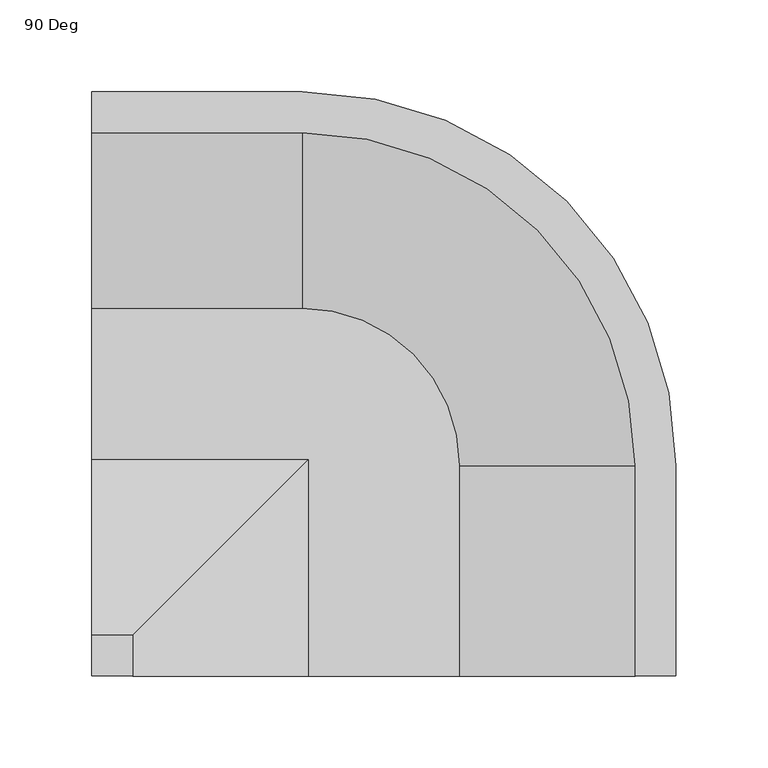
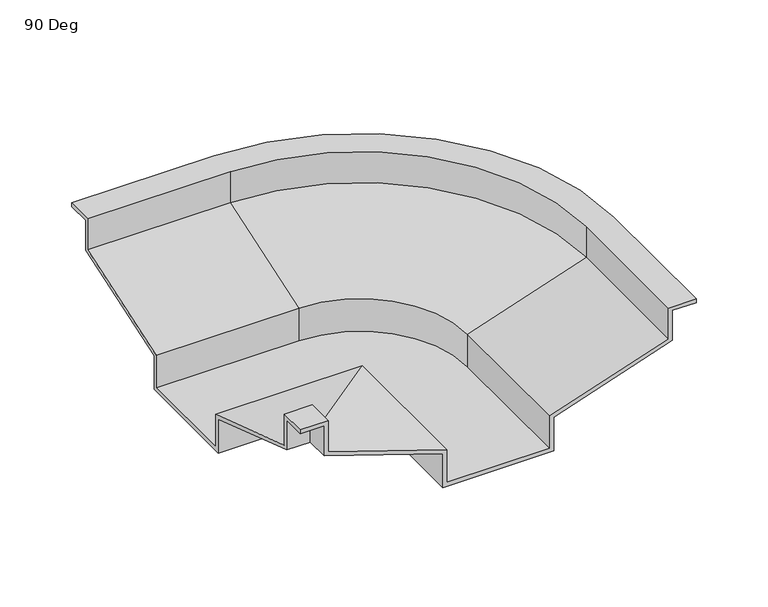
"""IFC4 building model written with IfcOpenShell, lengths in millimetres: furniture geometry, HermanMiller_Ethospace_E2828_CounterTopSupportFiller : 90 Deg."""

from ifc_helpers import new_model, si_unit, frame, origin, place, context, project, spatial, polyline, circle_curve, source, transform, mapped, element, save
from ifc_brep_helpers import plane_surface, cylinder_surface, revolved_surface, advanced_brep


def furniture_90_deg_19f469a9(model_context):
    return source(origin(), model_context, "Body", "AdvancedBrep", [
        advanced_brep(
        [(-158.75, 53.975, 996.0634105), (-158.75, 149.225, 1027.8134105), (-158.75, 149.225, 1054.1), (-158.75, 171.45, 1054.1), (-158.75, 171.45, 1050.925), (-158.75, 152.4, 1050.925), (-158.75, 152.4, 1025.525), (-158.75, 57.15, 993.775), (-158.75, 57.15, 965.2), (-158.75, -31.75, 965.2), (-158.75, -31.75, 993.775), (-158.75, -127.0, 1025.525), (-158.75, -127.0, 1050.925), (-158.75, -146.05, 1050.925), (-158.75, -146.05, 1054.1), (-158.75, -123.825, 1054.1), (-158.75, -123.825, 1027.8134105), (-158.75, -28.575, 996.0634105), (-158.75, -28.575, 968.375), (-158.75, 53.975, 968.375), (-44.45, 53.975, 996.0634105), (-44.45, 149.225, 1027.8134105), (-44.45, 149.225, 1054.1), (136.525, -31.75, 1054.1), (136.525, -146.05, 1054.1), (158.75, -146.05, 1054.1), (158.75, -31.75, 1054.1), (-44.45, 171.45, 1054.1), (-44.45, 171.45, 1050.925), (158.75, -31.75, 1050.925), (158.75, -146.05, 1050.925), (139.7, -146.05, 1050.925), (139.7, -31.75, 1050.925), (-44.45, 152.4, 1050.925), (-44.45, 152.4, 1025.525), (-44.45, 57.15, 993.775), (-44.45, 57.15, 968.375), (-44.45, 57.15, 965.2), (44.45, -31.75, 965.2), (44.45, -146.05, 965.2), (-44.45, -146.05, 965.2), (-44.45, -31.75, 965.2), (-44.45, 53.975, 968.375), (41.275, -31.75, 996.0634105), (136.525, -31.75, 1027.8134105), (139.7, -31.75, 1025.525), (44.45, -31.75, 993.775), (44.45, -31.75, 968.375), (41.275, -31.75, 968.375), (136.525, -146.05, 1027.8134105), (41.275, -146.05, 996.0634105), (41.275, -146.05, 968.375), (-41.275, -146.05, 968.375), (-41.275, -146.05, 996.0634105), (-136.525, -146.05, 1027.8134105), (-136.525, -146.05, 1054.1), (-139.7, -146.05, 1050.925), (-139.7, -146.05, 1025.525), (-44.45, -146.05, 993.775), (44.45, -146.05, 993.775), (139.7, -146.05, 1025.525), (-41.275, -28.575, 968.375), (-44.45, -31.75, 993.775), (-139.7, -127.0, 1025.525), (-41.275, -28.575, 996.0634105), (-136.525, -123.825, 1027.8134105), (-136.525, -123.825, 1054.1), (-139.7, -127.0, 1050.925)],
        [
            (0, 1),
            (1, 2),
            (2, 3),
            (3, 4),
            (4, 5),
            (5, 6),
            (6, 7),
            (7, 8),
            (8, 9),
            (9, 10),
            (10, 11),
            (11, 12),
            (12, 13),
            (13, 14),
            (14, 15),
            (15, 16),
            (16, 17),
            (17, 18),
            (18, 19),
            (19, 0),
            (0, 20),
            (20, 21),
            (21, 1),
            (21, 22),
            (22, 2),
            (22, 23, circle_curve(frame((-44.45, -31.75, 1054.1), z_axis=(0.0, 0.0, -1.0), x_axis=(0.0, 1.0, 0.0)), 180.975)),
            (23, 24),
            (24, 25),
            (25, 26),
            (26, 27, circle_curve(frame((-44.45, -31.75, 1054.1), z_axis=(0.0, 0.0, 1.0), x_axis=(0.0, 1.0, 0.0)), 203.2)),
            (27, 3),
            (27, 28),
            (28, 4),
            (28, 29, circle_curve(frame((-44.45, -31.75, 1050.925), z_axis=(0.0, 0.0, -1.0), x_axis=(0.0, 1.0, 0.0)), 203.2)),
            (29, 30),
            (30, 31),
            (31, 32),
            (32, 33, circle_curve(frame((-44.45, -31.75, 1050.925), z_axis=(0.0, 0.0, 1.0), x_axis=(0.0, 1.0, 0.0)), 184.15)),
            (33, 5),
            (33, 34),
            (34, 6),
            (34, 35),
            (35, 7),
            (35, 36),
            (36, 37),
            (37, 8),
            (37, 38, circle_curve(frame((-44.45, -31.75, 965.2), z_axis=(0.0, 0.0, -1.0), x_axis=(0.0, 1.0, 0.0)), 88.9)),
            (38, 39),
            (39, 40),
            (40, 41),
            (41, 9),
            (19, 42),
            (42, 20),
            (20, 43, circle_curve(frame((-44.45, -31.75, 996.0634105), z_axis=(0.0, 0.0, -1.0), x_axis=(0.0, 1.0, 0.0)), 85.725)),
            (43, 44),
            (44, 21, circle_curve(frame((-44.45, -31.75, 1027.8134105), z_axis=(0.0, 0.0, 1.0), x_axis=(0.0, 1.0, 0.0)), 180.975)),
            (44, 23),
            (26, 29),
            (32, 45),
            (45, 34, circle_curve(frame((-44.45, -31.75, 1025.525), z_axis=(0.0, 0.0, 1.0), x_axis=(0.0, 1.0, 0.0)), 184.15)),
            (45, 46),
            (46, 35, circle_curve(frame((-44.45, -31.75, 993.775), z_axis=(0.0, 0.0, 1.0), x_axis=(0.0, 1.0, 0.0)), 88.9)),
            (46, 47),
            (47, 38),
            (42, 48, circle_curve(frame((-44.45, -31.75, 968.375), z_axis=(0.0, 0.0, -1.0), x_axis=(0.0, 1.0, 0.0)), 85.725)),
            (48, 43),
            (24, 49),
            (49, 50),
            (50, 51),
            (51, 52),
            (52, 53),
            (53, 54),
            (54, 55),
            (55, 14),
            (13, 56),
            (56, 57),
            (57, 58),
            (58, 40),
            (39, 59),
            (59, 60),
            (60, 31),
            (30, 25),
            (43, 50),
            (49, 44),
            (60, 45),
            (59, 46),
            (48, 51),
            (18, 61),
            (61, 52),
            (41, 62),
            (62, 10),
            (58, 62),
            (57, 63),
            (63, 62),
            (64, 53),
            (61, 64),
            (64, 65),
            (65, 54),
            (65, 66),
            (66, 55),
            (66, 15),
            (12, 67),
            (67, 56),
            (67, 63),
            (63, 11),
            (17, 64),
            (16, 65),
        ],
        [
            plane_surface(frame((-158.75, 171.45, 1562.1), z_axis=(-1.0, 0.0, 0.0), x_axis=(0.0, 0.0, 1.0))),
            plane_surface(frame((-158.75, 53.975, 996.0634105), z_axis=(0.0, -0.3162277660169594, 0.9486832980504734), x_axis=(1.0, 0.0, 0.0))),
            plane_surface(frame((-158.75, 149.225, 1027.8134105), z_axis=(0.0, -1.0, 0.0), x_axis=(1.0, 0.0, 0.0))),
            plane_surface(frame((-158.75, 149.225, 1054.1), z_axis=(0.0, 0.0, 1.0), x_axis=(1.0, 0.0, 0.0))),
            plane_surface(frame((-158.75, 171.45, 1054.1), z_axis=(0.0, 1.0, 0.0), x_axis=(1.0, 0.0, 0.0))),
            plane_surface(frame((-158.75, 171.45, 1050.925), z_axis=(0.0, 0.0, -1.0), x_axis=(1.0, 0.0, 0.0))),
            plane_surface(frame((-158.75, 152.4, 1050.925), z_axis=(0.0, 1.0, 0.0), x_axis=(1.0, 0.0, 0.0))),
            plane_surface(frame((-158.75, 152.4, 1025.525), z_axis=(0.0, 0.3162277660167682, -0.9486832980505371), x_axis=(1.0, 0.0, 0.0))),
            plane_surface(frame((-158.75, 57.15, 993.775), z_axis=(0.0, 1.0, 0.0), x_axis=(1.0, 0.0, 0.0))),
            plane_surface(frame((-158.75, 57.15, 965.2), z_axis=(0.0, 0.0, -1.0), x_axis=(1.0, 0.0, 0.0))),
            plane_surface(frame((-158.75, 53.975, 965.2), z_axis=(0.0, -1.0, 0.0), x_axis=(1.0, 0.0, 0.0))),
            revolved_surface(polyline([(-44.45, 53.975, 996.0634105), (-44.45, 149.225, 1027.8134105)]), (-44.45, -31.75, 1562.1), (0.0, 0.0, -1.0)),
            revolved_surface(polyline([(-44.45, 149.225, 1027.8134105), (-44.45, 149.225, 1054.1)]), (-44.45, -31.75, 1562.1), (0.0, 0.0, -1.0)),
            cylinder_surface(frame((-44.45, -31.75, 1562.1), z_axis=(0.0, 0.0, -1.0), x_axis=(0.0, 1.0, 0.0)), 203.2),
            cylinder_surface(frame((-44.45, -31.75, 1562.1), z_axis=(0.0, 0.0, -1.0), x_axis=(0.0, 1.0, 0.0)), 184.15),
            revolved_surface(polyline([(-44.45, 152.4, 1025.525), (-44.45, 57.15, 993.775)]), (-44.45, -31.75, 1562.1), (0.0, 0.0, -1.0)),
            cylinder_surface(frame((-44.45, -31.75, 1562.1), z_axis=(0.0, 0.0, -1.0), x_axis=(0.0, 1.0, 0.0)), 88.9),
            revolved_surface(polyline([(-44.45, 53.974999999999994, 968.375), (-44.45, 53.974999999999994, 996.0634105)]), (-44.45, -31.75, 1562.1), (0.0, 0.0, -1.0)),
            plane_surface(frame((158.75, -146.05, 1562.1), z_axis=(0.0, -1.0, 0.0), x_axis=(0.0, 0.0, 1.0))),
            plane_surface(frame((41.275, -31.75, 996.0634105), z_axis=(-0.3162277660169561, 0.0, 0.9486832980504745), x_axis=(0.0, -1.0, 0.0))),
            plane_surface(frame((136.525, -31.75, 1027.8134105), z_axis=(-1.0, 0.0, 0.0), x_axis=(0.0, -1.0, 0.0))),
            plane_surface(frame((158.75, -31.75, 1054.1), z_axis=(1.0, 0.0, 0.0), x_axis=(0.0, -1.0, 0.0))),
            plane_surface(frame((139.7, -31.75, 1050.925), z_axis=(1.0, 0.0, 0.0), x_axis=(0.0, -1.0, 0.0))),
            plane_surface(frame((139.7, -31.75, 1025.525), z_axis=(0.31622776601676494, 0.0, -0.9486832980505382), x_axis=(0.0, -1.0, 0.0))),
            plane_surface(frame((44.45, -31.75, 993.775), z_axis=(1.0, 0.0, 0.0), x_axis=(0.0, -1.0, 0.0))),
            plane_surface(frame((41.275, -31.75, 965.2), z_axis=(-1.0, 0.0, 0.0), x_axis=(0.0, -1.0, 0.0))),
            plane_surface(frame((-44.45, 57.15, 968.375), z_axis=(0.0, 0.0, 1.0), x_axis=(-1.0, 0.0, 0.0))),
            plane_surface(frame((-158.75, -31.75, 968.375), z_axis=(0.0, -1.0, 0.0), x_axis=(0.0, 0.0, -1.0))),
            plane_surface(frame((-44.45, -31.75, 968.375), z_axis=(-1.0, 0.0, 0.0), x_axis=(0.0, 0.0, -1.0))),
            plane_surface(frame((-139.7, -146.05, 1025.525), z_axis=(-0.31622776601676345, 0.0, -0.9486832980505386), x_axis=(0.0, 1.0, 0.0))),
            plane_surface(frame((-41.275, -146.05, 965.2), z_axis=(1.0, 0.0, 0.0), x_axis=(0.0, 1.0, 0.0))),
            plane_surface(frame((-41.275, -146.05, 996.0634105), z_axis=(0.31622776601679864, 0.0, 0.948683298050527), x_axis=(0.0, 1.0, 0.0))),
            plane_surface(frame((-136.525, -146.05, 1027.8134105), z_axis=(1.0, 0.0, 0.0), x_axis=(0.0, 1.0, 0.0))),
            plane_surface(frame((-136.525, -146.05, 1054.1), z_axis=(0.0, 0.0, 1.0), x_axis=(0.0, 1.0, 0.0))),
            plane_surface(frame((-158.75, -146.05, 1050.925), z_axis=(0.0, 0.0, -1.0), x_axis=(0.0, 1.0, 0.0))),
            plane_surface(frame((-139.7, -146.05, 1050.925), z_axis=(-1.0, 0.0, 0.0), x_axis=(0.0, 1.0, 0.0))),
            plane_surface(frame((-139.7, -127.0, 1025.525), z_axis=(0.0, -0.316227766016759, -0.9486832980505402), x_axis=(-1.0, 0.0, 0.0))),
            plane_surface(frame((-41.275, -28.575, 965.2), z_axis=(0.0, 1.0, 0.0), x_axis=(-1.0, 0.0, 0.0))),
            plane_surface(frame((-41.275, -28.575, 996.0634105), z_axis=(0.0, 0.31622776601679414, 0.9486832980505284), x_axis=(-1.0, 0.0, 0.0))),
            plane_surface(frame((-136.525, -123.825, 1027.8134105), z_axis=(0.0, 1.0, 0.0), x_axis=(-1.0, 0.0, 0.0))),
            plane_surface(frame((-139.7, -127.0, 1050.925), z_axis=(0.0, -1.0, 0.0), x_axis=(-1.0, 0.0, 0.0))),
        ],
        [
            (0, [[1, 2, 3, 4, 5, 6, 7, 8, 9, 10, 11, 12, 13, 14, 15, 16, 17, 18, 19, 20]]),
            (1, [[-1, 21, 22, 23]]),
            (2, [[-2, -23, 24, 25]]),
            (3, [[-3, -25, 26, 27, 28, 29, 30, 31]]),
            (4, [[-4, -31, 32, 33]]),
            (5, [[-5, -33, 34, 35, 36, 37, 38, 39]]),
            (6, [[-6, -39, 40, 41]]),
            (7, [[-7, -41, 42, 43]]),
            (8, [[-43, 44, 45, 46, -8]]),
            (9, [[-9, -46, 47, 48, 49, 50, 51]]),
            (10, [[-21, -20, 52, 53]]),
            (11, [[-22, 54, 55, 56]]),
            (12, [[-24, -56, 57, -26]]),
            (13, [[-30, 58, -34, -32]]),
            (14, [[-38, 59, 60, -40]]),
            (15, [[-42, -60, 61, 62]]),
            (16, [[-47, -45, -44, -62, 63, 64]]),
            (17, [[-54, -53, 65, 66]]),
            (18, [[-28, 67, 68, 69, 70, 71, 72, 73, 74, -14, 75, 76, 77, 78, -49, 79, 80, 81, -36, 82]]),
            (19, [[-55, 83, -68, 84]]),
            (20, [[-27, -57, -84, -67]]),
            (21, [[-29, -82, -35, -58]]),
            (22, [[-37, -81, 85, -59]]),
            (23, [[-61, -85, -80, 86]]),
            (24, [[-48, -64, -63, -86, -79]]),
            (25, [[-83, -66, 87, -69]]),
            (26, [[-52, -19, 88, 89, -70, -87, -65]]),
            (27, [[-10, -51, 90, 91]]),
            (28, [[-90, -50, -78, 92]]),
            (29, [[-77, 93, 94, -92]]),
            (30, [[95, -71, -89, 96]]),
            (31, [[-72, -95, 97, 98]]),
            (32, [[-73, -98, 99, 100]]),
            (33, [[-74, -100, 101, -15]]),
            (34, [[-75, -13, 102, 103]]),
            (35, [[-76, -103, 104, -93]]),
            (36, [[-94, 105, -11, -91]]),
            (37, [[106, -96, -88, -18]]),
            (38, [[-97, -106, -17, 107]]),
            (39, [[-99, -107, -16, -101]]),
            (40, [[-102, -12, -105, -104]]),
        ],
    ),
    ])


if __name__ == "__main__":
    model = new_model("IFC4")
    model_context = context("Model", 3, world=origin())
    ifc_project = project(units=[si_unit("LENGTHUNIT", "METRE", prefix="MILLI")], contexts=[model_context])
    site = spatial("IfcSite", under=ifc_project)
    building = spatial("IfcBuilding", under=site)
    placement = place(None, origin())
    furniture_90_deg_shape = furniture_90_deg_19f469a9(model_context)
    element("IfcFurniture", 1, ObjectType="HermanMiller_Ethospace_E2828_CounterTopSupportFiller : 90 Deg", at=placement, inside=building, context=model_context, shape_type="MappedRepresentation", body=[
        mapped(furniture_90_deg_shape, transform((0.0, 0.0, 0.0), x_axis=(1.0, 0.0, 0.0), y_axis=(0.0, 1.0, 0.0), z_axis=(0.0, 0.0, 1.0))),
    ])
    save(model, "model.ifc")
